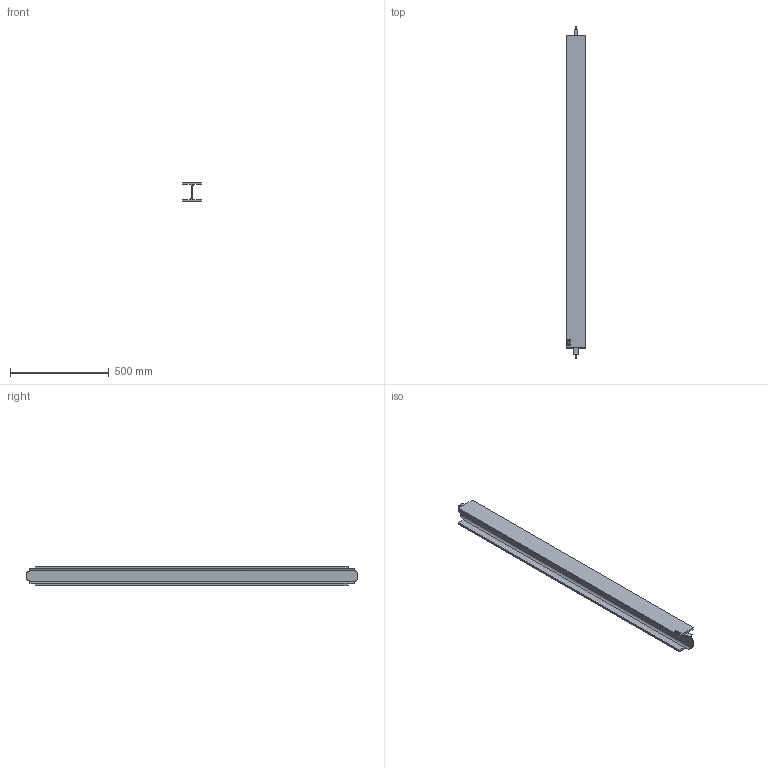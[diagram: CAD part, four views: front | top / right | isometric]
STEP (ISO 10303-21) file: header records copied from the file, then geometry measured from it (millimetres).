
FILE_DESCRIPTION (( 'STEP AP214' ), '1' );
FILE_NAME ('CCJ029-REP.008 - POUTRE B1-C1.STEP', '2025-02-13T07:40:53', ( '' ), ( '' ), 'SwSTEP 2.0', 'SolidWorks 2021', '' );
FILE_SCHEMA (( 'AUTOMOTIVE_DESIGN' ));
Length unit declared in the file: millimetre
Products named in the file (1): CCJ029-REP.008 - POUTRE B1-C1
Bounding box: 100 x 1678.5 x 100 mm (x, y, z)
Volume: 4158995.4 mm3; surface area: 918257.2 mm2
Topology: 1 solids, 1 shells, 72 faces, 189 edges, 126 vertices
Faces by surface type: bspline 35, plane 29, cylinder 8
Entity records: 4749 total; most frequent: CARTESIAN_POINT 3175, ORIENTED_EDGE 378, DIRECTION 203, EDGE_CURVE 189, VERTEX_POINT 126, LINE 95, VECTOR 95, EDGE_LOOP 79
